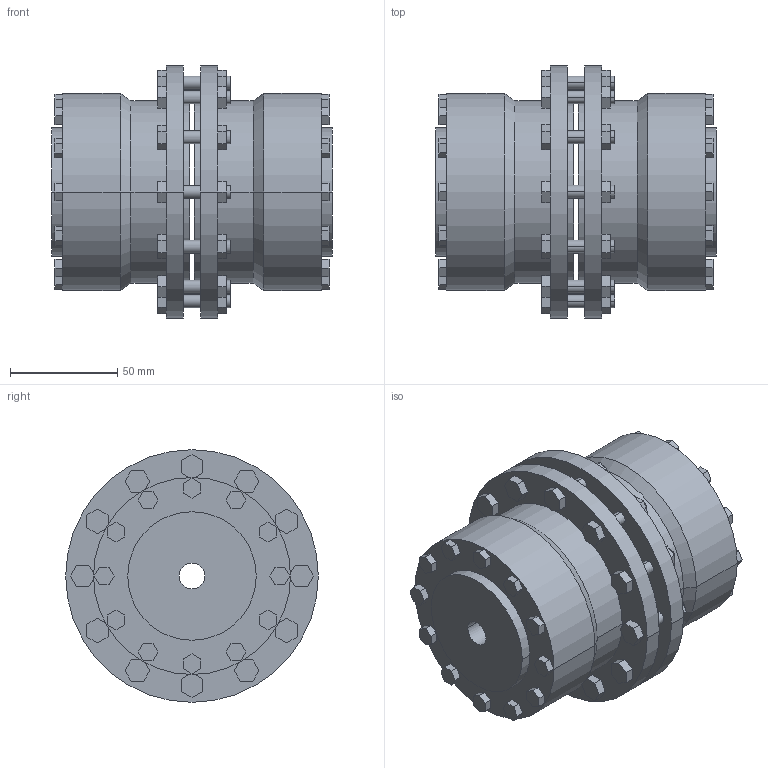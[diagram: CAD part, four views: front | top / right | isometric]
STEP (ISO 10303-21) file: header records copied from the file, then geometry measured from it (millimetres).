
FILE_DESCRIPTION((''),'2;1');
FILE_NAME('A19729100-0_ASM','2019-05-23T',('AB_Roschiwal'),('RENK AG'),'PRO/ENGINEER BY PARAMETRIC TECHNOLOGY CORPORATION, 2015440','PRO/ENGINEER BY PARAMETRIC TECHNOLOGY CORPORATION, 2015440','');
FILE_SCHEMA(('CONFIG_CONTROL_DESIGN'));
Length unit declared in the file: millimetre
Products named in the file (3): SBKT38_GEHAEUSE; SBKT38_NABE; A19729100-0_ASM
Assembly tree (3 placements, depth 2):
  A19729100-0_ASM
    SBKT38_GEHAEUSE
    SBKT38_NABE  x2
Bounding box: 131 x 118 x 118 mm (x, y, z)
Volume: 693283.3 mm3; surface area: 150743.4 mm2
Topology: 3 solids, 3 shells, 458 faces, 1132 edges, 752 vertices
Faces by surface type: plane 366, cylinder 88, cone 4
Entity records: 13260 total; most frequent: CARTESIAN_POINT 2296, ORIENTED_EDGE 2216, DIRECTION 2172, EDGE_CURVE 1108, VECTOR 948, LINE 948, VERTEX_POINT 736, AXIS2_PLACEMENT_3D 612
